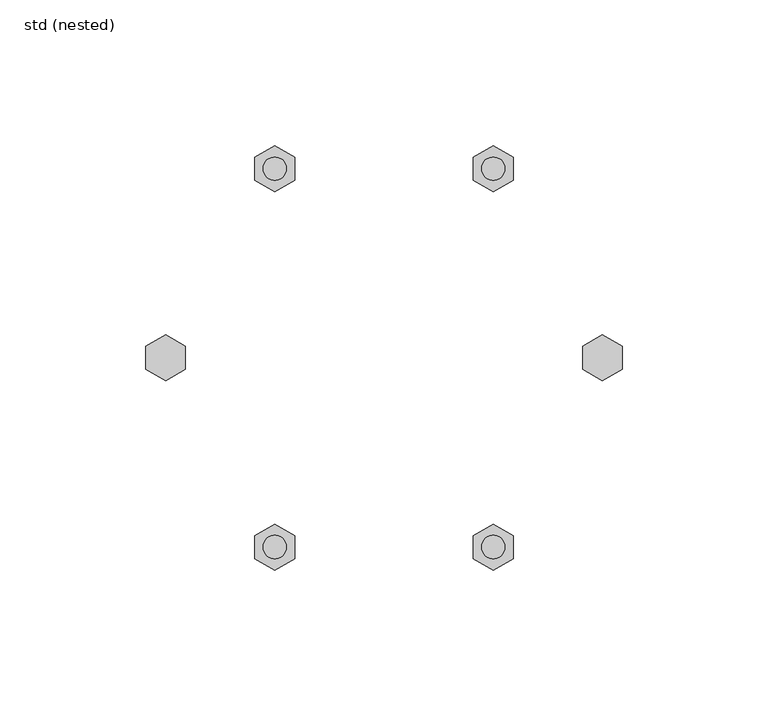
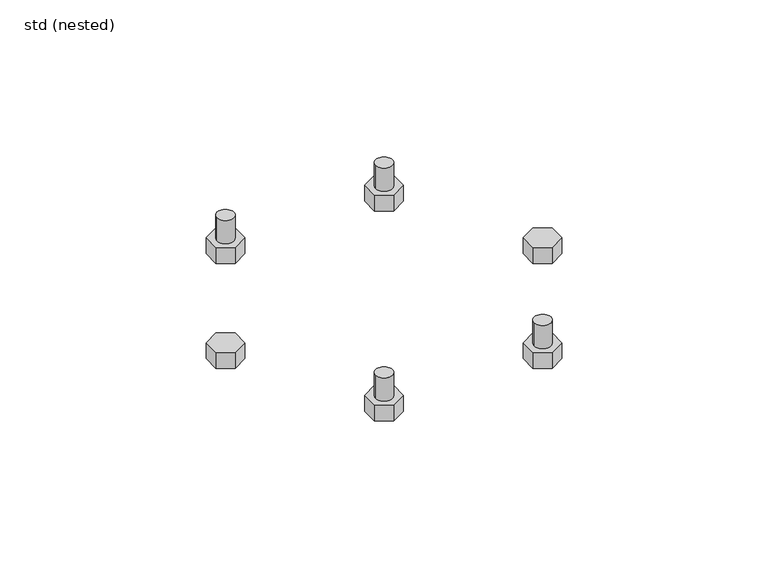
"""IFC4 building model written with IfcOpenShell, lengths in millimetres: sanitary terminal geometry, NLRS_50_PF_AV_Akasison Daktrechter XL75 C Base Outlet_Akatherm : std (nested)."""

from ifc_helpers import new_model, si_unit, point, frame_2d, origin, origin_with_axes, place, context, project, spatial, polyline, circle_curve, trimmed, segment, composite_curve, outline, extrude, source, transform, mapped, element, save


def std_nested_ee38ed3e(model_context):
    return source(origin(), model_context, "Body", "SweptSolid", [
        extrude(outline(composite_curve([segment(trimmed(circle_curve(frame_2d((-37.5, 64.9519053)), 4.0), [point((-41.5, 64.9519053))], [point((-33.5, 64.9519053))], False, "CARTESIAN"), True, "CONTINUOUS"), segment(trimmed(circle_curve(frame_2d((-37.5, 64.9519053)), 4.0), [point((-33.5, 64.9519053))], [point((-41.5, 64.9519053))], False, "CARTESIAN"), True, "CONTINUOUS")], self_intersect=False)), origin_with_axes(), (0.0, 0.0, 1.0), 19.4),
        extrude(outline(composite_curve([segment(trimmed(circle_curve(frame_2d((37.5, 64.9519053)), 4.0), [point((33.5, 64.9519053))], [point((41.5, 64.9519053))], False, "CARTESIAN"), True, "CONTINUOUS"), segment(trimmed(circle_curve(frame_2d((37.5, 64.9519053)), 4.0), [point((41.5, 64.9519053))], [point((33.5, 64.9519053))], False, "CARTESIAN"), True, "CONTINUOUS")], self_intersect=False)), origin_with_axes(), (0.0, 0.0, 1.0), 19.4),
        extrude(outline(composite_curve([segment(trimmed(circle_curve(frame_2d((37.5, -64.9519053)), 4.0), [point((33.5, -64.9519053))], [point((41.5, -64.9519053))], False, "CARTESIAN"), True, "CONTINUOUS"), segment(trimmed(circle_curve(frame_2d((37.5, -64.9519053)), 4.0), [point((41.5, -64.9519053))], [point((33.5, -64.9519053))], False, "CARTESIAN"), True, "CONTINUOUS")], self_intersect=False)), origin_with_axes(), (0.0, 0.0, 1.0), 19.4),
        extrude(outline(composite_curve([segment(trimmed(circle_curve(frame_2d((-37.5, -64.9519053)), 4.0), [point((-41.5, -64.9519053))], [point((-33.5, -64.9519053))], False, "CARTESIAN"), True, "CONTINUOUS"), segment(trimmed(circle_curve(frame_2d((-37.5, -64.9519053)), 4.0), [point((-33.5, -64.9519053))], [point((-41.5, -64.9519053))], False, "CARTESIAN"), True, "CONTINUOUS")], self_intersect=False)), origin_with_axes(), (0.0, 0.0, 1.0), 19.4),
        extrude(outline(polyline([(-81.8378249, 3.94782), (-75.0, 7.8956401), (-68.1621751, 3.94782), (-68.1621751, -3.94782), (-75.0, -7.8956401), (-81.8378249, -3.94782), (-81.8378249, 3.94782)])), origin_with_axes(), (0.0, 0.0, 1.0), 8.0),
        extrude(outline(polyline([(-44.3378249, 68.8997253), (-37.5, 72.8475454), (-30.6621751, 68.8997253), (-30.6621751, 61.0040852), (-37.5, 57.0562652), (-44.3378249, 61.0040852), (-44.3378249, 68.8997253)])), origin_with_axes(), (0.0, 0.0, 1.0), 8.0),
        extrude(outline(polyline([(30.6621751, 68.8997253), (37.5, 72.8475454), (44.3378249, 68.8997253), (44.3378249, 61.0040852), (37.5, 57.0562652), (30.6621751, 61.0040852), (30.6621751, 68.8997253)])), origin_with_axes(), (0.0, 0.0, 1.0), 8.0),
        extrude(outline(polyline([(68.1621751, 3.94782), (75.0, 7.8956401), (81.8378249, 3.94782), (81.8378249, -3.94782), (75.0, -7.8956401), (68.1621751, -3.94782), (68.1621751, 3.94782)])), origin_with_axes(), (0.0, 0.0, 1.0), 8.0),
        extrude(outline(polyline([(30.6621751, -61.0040852), (37.5, -57.0562652), (44.3378249, -61.0040852), (44.3378249, -68.8997253), (37.5, -72.8475454), (30.6621751, -68.8997253), (30.6621751, -61.0040852)])), origin_with_axes(), (0.0, 0.0, 1.0), 8.0),
        extrude(outline(polyline([(-44.3378249, -61.0040852), (-37.5, -57.0562652), (-30.6621751, -61.0040852), (-30.6621751, -68.8997253), (-37.5, -72.8475454), (-44.3378249, -68.8997253), (-44.3378249, -61.0040852)])), origin_with_axes(), (0.0, 0.0, 1.0), 8.0),
    ])


if __name__ == "__main__":
    model = new_model("IFC4")
    model_context = context("Model", 3, world=origin())
    ifc_project = project(units=[si_unit("LENGTHUNIT", "METRE", prefix="MILLI")], contexts=[model_context])
    site = spatial("IfcSite", under=ifc_project)
    building = spatial("IfcBuilding", under=site)
    placement = place(None, origin())
    std_nested_shape = std_nested_ee38ed3e(model_context)
    element("IfcSanitaryTerminal", 1, ObjectType="NLRS_50_PF_AV_Akasison Daktrechter XL75 C Base Outlet_Akatherm : std (nested)", at=placement, inside=building, context=model_context, shape_type="MappedRepresentation", body=[
        mapped(std_nested_shape, transform((0.0, 0.0, 0.0), x_axis=(1.0, 0.0, 0.0), y_axis=(0.0, 1.0, 0.0), z_axis=(0.0, 0.0, 1.0))),
    ])
    save(model, "model.ifc")
